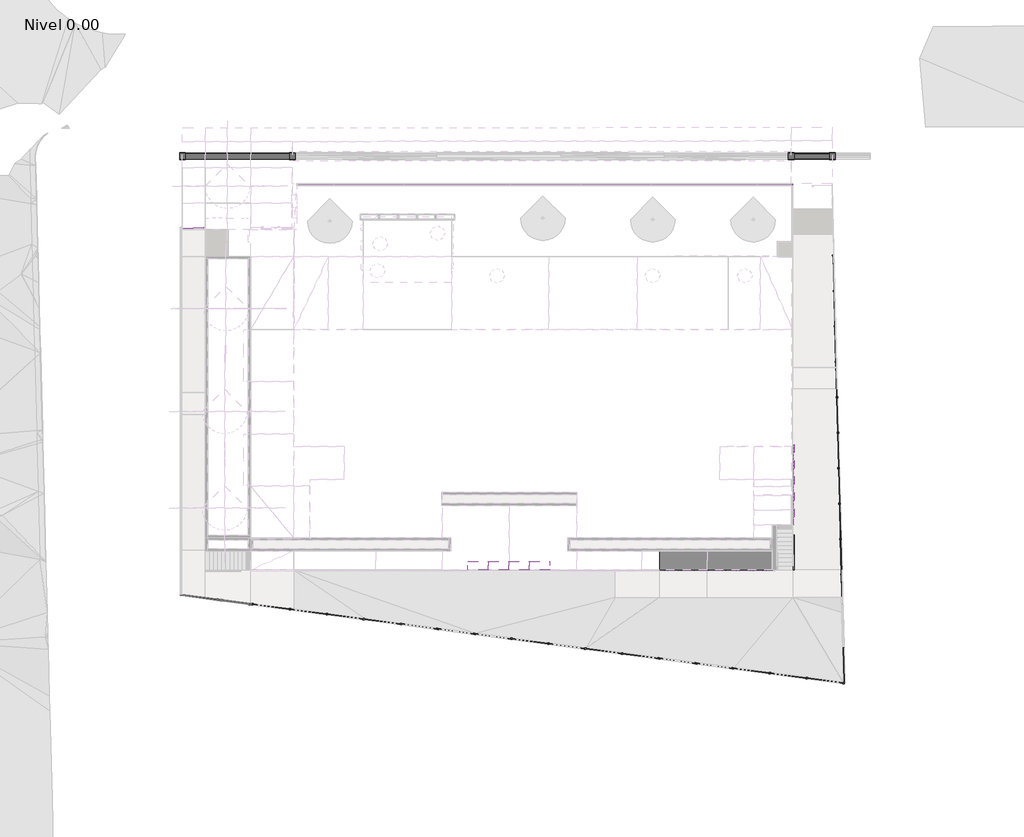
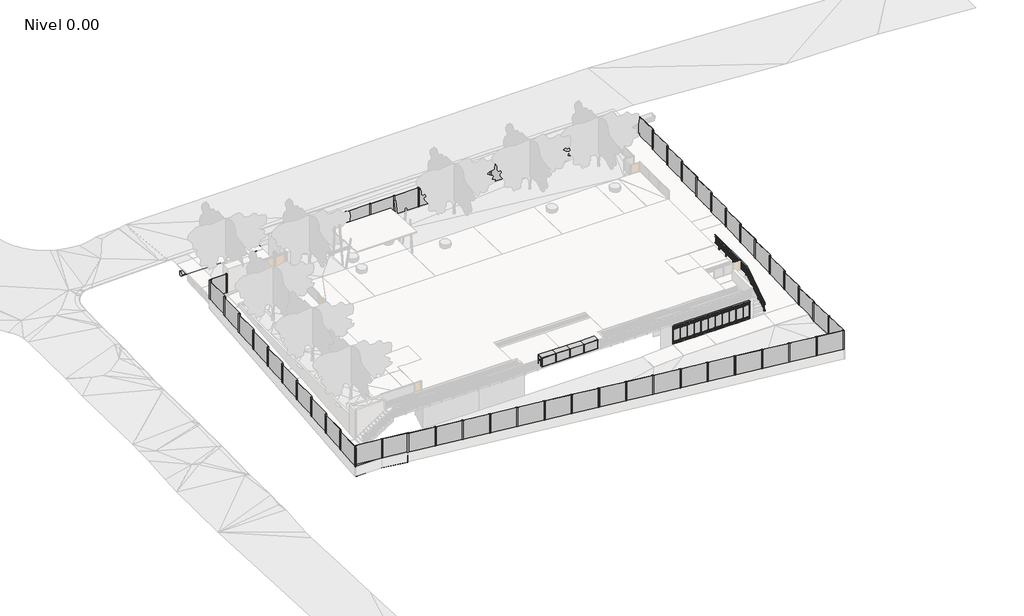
# One storey, part 6 of 10: 9 railings, 5 furniture elements, 4 pipe fittings, 4 proxies, 2 pipe segments.
"""IFC4 building model written with IfcOpenShell, lengths in millimetres."""

from ifc_helpers import new_model, si_unit, point, frame, frame_2d, origin, place, context, project, spatial, polyline, circle_curve, ellipse_curve, trimmed, segment, composite_curve, outline, extrude, triangles, transform, mapped, element, save
from ifc_brep_helpers import plane_surface, cylinder_surface, advanced_brep
from components import m_support_metal_circular_m_support_metal_circular_0da74429, furniture_cada333b, furniture_d1395fad, m_coupling_pvc_sch_40_standard_509bd38a, railing_7fe9504b, railing_19e960b4, railing_235248c9, railing_fcdaff37, railing_3146d198, railing_e0be1908, railing_555e50fc

model = new_model("IFC4")

# Units and contexts
model_context = context("Model", 3, world=origin())
ifc_project = project(units=[si_unit("LENGTHUNIT", "METRE", prefix="MILLI")], contexts=[model_context])

# Site, building, storey
site = spatial("IfcSite", under=ifc_project)
building = spatial("IfcBuilding", under=site)
storey = spatial("IfcBuildingStorey", under=building, Name="Nivel 0.00", Elevation=0.0)

# Proxies
placement = place(None, origin())
element("IfcBuildingElementProxy", 1, Name="Building Element Proxy", at=placement, inside=storey, context=model_context, shape_type="Tessellation", body=[
    triangles([(-19057.5716309, -17933.2763031, -1898.5402199), (-19057.5716309, -17933.2763031, -1000.2852373), (-20894.4734619, -17688.2796295, -1859.9103104), (-20894.4734619, -17688.2796295, -886.9698429), (-20954.5325867, -17680.2696533, -1858.6473061), (-20954.5325867, -17680.2696533, -883.2649092), (-21143.2838562, -17655.0956085, -1854.6777809), (-21143.2838562, -17655.0956085, -871.6211432), (-21331.2258728, -17630.0285339, -1850.7254059), (-21331.2258728, -17630.0285339, -860.0273014), (-21355.3895142, -17626.8054749, -1850.2172974), (-21355.3895142, -17626.8054749, -858.5366947)], [[1, 4, 2], [1, 3, 4], [3, 6, 4], [3, 5, 6], [5, 8, 6], [5, 7, 8], [7, 10, 8], [7, 9, 10], [9, 12, 10], [9, 11, 12]], closed=False),
    triangles([(-18977.8288239, -17943.9117004, -1900.2172977), (-18977.8288239, -17943.9117004, -1168.0709988), (-19000.4658142, -17940.89328, -1899.741164), (-19000.4658142, -17940.89328, -1166.0201065), (-19057.5716309, -17933.2763031, -1898.5402199), (-19057.5716309, -17933.2763031, -1163.9730658)], [[1, 4, 2], [1, 3, 4], [3, 6, 4], [3, 5, 6]], closed=False),
    triangles([(-18990.2141144, -18036.7792877, -1900.2172977), (-18990.2141144, -18036.7792877, -1200.60317), (-18991.0489471, -18043.0347198, -1900.2172977), (-18991.0489471, -18043.0347198, -1202.7942427), (-19396.9544037, -17988.8961639, -1891.6810455), (-19396.9544037, -17988.8961639, -1166.0201065), (-20952.6699097, -17781.4041779, -1858.9644379), (-20952.6699097, -17781.4041779, -1110.253743), (-21002.0017822, -17774.8243469, -1857.9270012), (-21002.0017822, -17774.8243469, -1112.9099035), (-21157.0388306, -17754.1465393, -1854.6665897), (-21157.0388306, -17754.1465393, -1121.2574318), (-21311.4131287, -17733.5559357, -1851.4201309), (-21311.4131287, -17733.5559357, -1122.9340736), (-21368.6096375, -17725.9273315, -1850.2172974), (-21368.6096375, -17725.9273315, -1132.036207)], [[1, 4, 2], [1, 3, 4], [3, 6, 4], [3, 5, 6], [5, 8, 6], [5, 7, 8], [7, 10, 8], [7, 9, 10], [9, 12, 10], [9, 11, 12], [11, 14, 12], [11, 13, 14], [13, 16, 14], [13, 15, 16]], closed=False),
    triangles([(-18990.2141144, -18036.7792877, -1900.2172977), (-18990.2141144, -18036.7792877, -1200.60317), (-18991.0489471, -18043.0347198, -1900.2172977), (-18991.0489471, -18043.0347198, -1202.7942427)], [[1, 4, 2], [1, 3, 4]], closed=False),
    triangles([(-19057.5716309, -17933.2763031, -1898.5402199), (-19057.5716309, -17933.2763031, -1163.9730658), (-19000.4658142, -17940.89328, -1899.741164), (-19000.4658142, -17940.89328, -1166.0201065), (-18977.8288239, -17943.9117004, -1900.2172977), (-18977.8288239, -17943.9117004, -1168.0709988)], [[1, 4, 2], [1, 3, 4], [3, 6, 4], [3, 5, 6]], closed=False),
    triangles([(-18991.0489471, -18043.0347198, -1900.2172977), (-18991.0489471, -18043.0347198, -1202.7942427), (-19396.9544037, -17988.8961639, -1891.6810455), (-19396.9544037, -17988.8961639, -1166.0201065), (-20952.6699097, -17781.4041779, -1858.9644379), (-20952.6699097, -17781.4041779, -1110.253743), (-21002.0017822, -17774.8243469, -1857.9270012), (-21002.0017822, -17774.8243469, -1112.9099035), (-21157.0388306, -17754.1465393, -1854.6665897), (-21157.0388306, -17754.1465393, -1121.2574318), (-21311.4131287, -17733.5559357, -1851.4201309), (-21311.4131287, -17733.5559357, -1122.9340736), (-21368.6096375, -17725.9273315, -1850.2172974), (-21368.6096375, -17725.9273315, -1132.036207)], [[1, 4, 2], [1, 3, 4], [3, 6, 4], [3, 5, 6], [5, 8, 6], [5, 7, 8], [7, 10, 8], [7, 9, 10], [9, 12, 10], [9, 11, 12], [11, 14, 12], [11, 13, 14]], closed=False),
    triangles([(-19057.5716309, -17933.2763031, -1898.5402199), (-19057.5716309, -17933.2763031, -1000.2852373), (-21355.3895142, -17626.8054749, -1850.2172974), (-21355.3895142, -17626.8054749, -858.5366947)], [[1, 4, 2], [1, 3, 4]], closed=False),
    triangles([(-18991.0489471, -18043.0347198, -1900.2172977), (-18977.8288239, -17943.9117004, -1900.2172977), (-21355.3895142, -17626.8054749, -1850.2172974), (-21368.6096375, -17725.9273315, -1850.2172974)], [[3, 4, 1], [1, 2, 3]], closed=False),
])
element("IfcBuildingElementProxy", 2, Name="Building Element Proxy", at=placement, inside=storey, context=model_context, shape_type="Tessellation", body=[
    triangles([(-21355.3895142, -17626.8054749, -1862.714209), (-21355.3895142, -17626.8054749, -858.5366947), (-22137.5720032, -17522.4827728, -1946.7699795), (-22137.5720032, -17522.4827728, -810.2852068)], [[1, 4, 2], [1, 3, 4]], closed=False),
    triangles([(-22137.5720032, -17522.4827728, -1946.7699795), (-22137.5720032, -17522.4827728, -810.1596331), (-23754.9616516, -17306.763382, -2120.5798645), (-23754.9616516, -17306.763382, -810.1596331)], [[1, 4, 2], [1, 3, 4]], closed=False),
    triangles([(-23754.9616516, -17306.763382, -2120.5798645), (-23754.9616516, -17306.763382, -1499.267062), (-23758.2800537, -17306.763382, -2120.9304245), (-23758.2800537, -17306.763382, -1499.8503113)], [[1, 4, 2], [1, 3, 4]], closed=False),
    triangles([(-21368.6096375, -17725.9273315, -1862.714209), (-21368.6096375, -17725.9273315, -1132.036207), (-23761.6007812, -17406.763092, -2119.8726402), (-23761.6007812, -17406.763092, -1512.845739), (-23858.2809265, -17406.763092, -2130.0807381), (-23858.2809265, -17406.763092, -1529.8314754), (-23858.2809265, -17306.763382, -2131.488937), (-23858.2809265, -17306.763382, -1517.419297)], [[1, 4, 2], [1, 3, 4], [3, 6, 4], [3, 5, 6], [5, 8, 6], [5, 7, 8]], closed=False),
    triangles([(-23858.2809265, -17306.763382, -2131.488937), (-23858.2809265, -17306.763382, -1517.419297), (-23858.2809265, -17406.763092, -2130.0807381), (-23858.2809265, -17406.763092, -1529.8314754), (-23761.6007812, -17406.763092, -2119.8726402), (-23761.6007812, -17406.763092, -1512.845739), (-21368.6096375, -17725.9273315, -1862.714209), (-21368.6096375, -17725.9273315, -1132.036207)], [[1, 4, 2], [1, 3, 4], [3, 6, 4], [3, 5, 6], [5, 8, 6], [5, 7, 8]], closed=False),
    triangles([(-23754.9616516, -17306.763382, -2120.5798645), (-23754.9616516, -17306.763382, -1499.267062), (-23758.2800537, -17306.763382, -2120.9304245), (-23758.2800537, -17306.763382, -1499.8503113)], [[1, 4, 2], [1, 3, 4]], closed=False),
    triangles([(-21355.3895142, -17626.8054749, -1862.714209), (-21355.3895142, -17626.8054749, -858.5366947), (-22137.5720032, -17522.4827728, -1946.7699795), (-22137.5720032, -17522.4827728, -810.2852068)], [[1, 4, 2], [1, 3, 4]], closed=False),
    triangles([(-22137.5720032, -17522.4827728, -1946.7699795), (-22137.5720032, -17522.4827728, -810.1596331), (-23754.9616516, -17306.763382, -2120.5798645), (-23754.9616516, -17306.763382, -810.1596331)], [[1, 4, 2], [1, 3, 4]], closed=False),
    triangles([(-21368.6096375, -17725.9273315, -1862.714209), (-21355.3895142, -17626.8054749, -1862.714209), (-23754.9616516, -17306.763382, -2120.5798645), (-23858.2809265, -17306.763382, -2131.488937), (-23858.2809265, -17406.763092, -2130.0807381), (-23761.6007812, -17406.763092, -2119.8726402)], [[4, 5, 6], [4, 6, 3], [6, 2, 3], [2, 6, 1]], closed=False),
])
m_support_metal_circular_m_support_metal_circular_shape = m_support_metal_circular_m_support_metal_circular_0da74429(model_context)
element("IfcBuildingElementProxy", 3, Name="M_Support - Metal - Circular : M_Support - Metal - Circular", ObjectType="M_Support - Metal - Circular : M_Support - Metal - Circular", at=placement, inside=storey, context=model_context, shape_type="MappedRepresentation", body=[
    mapped(m_support_metal_circular_m_support_metal_circular_shape, transform((16970.5253342, -13437.8549023, 1876.2622075), x_axis=(0.0, 1.0, 0.0), y_axis=(-1.0, 0.0, 0.0), z_axis=(0.0, 0.0, 1.0))),
])
element("IfcBuildingElementProxy", 4, Name="M_Support - Metal - Circular : M_Support - Metal - Circular", ObjectType="M_Support - Metal - Circular : M_Support - Metal - Circular", at=placement, inside=storey, context=model_context, shape_type="MappedRepresentation", body=[
    mapped(m_support_metal_circular_m_support_metal_circular_shape, transform((16970.5253342, -12766.7351697, 2311.6910816), x_axis=(0.0, 1.0, 0.0), y_axis=(-1.0, 0.0, 0.0), z_axis=(0.0, 0.0, 1.0))),
])

# Furniture
furniture_shape = furniture_cada333b(model_context)
element("IfcFurniture", 5, ObjectType="ARQ_MODULO_JAULA : ARQ_MODULO_JAULA", at=placement, inside=storey, context=model_context, shape_type="MappedRepresentation", body=[
    mapped(furniture_shape, transform((-3544.4234355, -15053.079504, 1514.5434448), x_axis=(1.0, 0.0, 0.0), y_axis=(0.0, 1.0, 0.0), z_axis=(0.0, 0.0, 1.0))),
])
element("IfcFurniture", 6, ObjectType="ARQ_MODULO_JAULA : ARQ_MODULO_JAULA", at=placement, inside=storey, context=model_context, shape_type="MappedRepresentation", body=[
    mapped(furniture_shape, transform((-2144.4234355, -15053.079504, 1514.5434448), x_axis=(1.0, 0.0, 0.0), y_axis=(0.0, 1.0, 0.0), z_axis=(0.0, 0.0, 1.0))),
])
element("IfcFurniture", 7, ObjectType="ARQ_MODULO_JAULA : ARQ_MODULO_JAULA", at=placement, inside=storey, context=model_context, shape_type="MappedRepresentation", body=[
    mapped(furniture_shape, transform((-744.4234355, -15053.079504, 1514.5433838), x_axis=(1.0, 0.0, 0.0), y_axis=(0.0, 1.0, 0.0), z_axis=(0.0, 0.0, 1.0))),
])
element("IfcFurniture", 8, ObjectType="ARQ_MODULO_JAULA : ARQ_MODULO_JAULA", at=placement, inside=storey, context=model_context, shape_type="MappedRepresentation", body=[
    mapped(furniture_shape, transform((655.5765645, -15053.079504, 1514.5433838), x_axis=(1.0, 0.0, 0.0), y_axis=(0.0, 1.0, 0.0), z_axis=(0.0, 0.0, 1.0))),
])
furniture_2_shape = furniture_d1395fad(model_context)
element("IfcFurniture", 9, ObjectType="ARQ_NICHOS : ARQ_NICHOS", at=placement, inside=storey, context=model_context, shape_type="MappedRepresentation", body=[
    mapped(furniture_2_shape, transform((11660.8247223, -14303.0159448, -638.4646224), x_axis=(1.0, 0.0, 0.0), y_axis=(0.0, 1.0, 0.0), z_axis=(0.0, 0.0, 1.0))),
])

# Pipe fittings
m_coupling_pvc_sch_40_standard_shape = m_coupling_pvc_sch_40_standard_509bd38a(model_context)
element("IfcPipeFitting", 10, ObjectType="M_Coupling - PVC - Sch 40 : Standard", at=placement, inside=storey, context=model_context, shape_type="MappedRepresentation", body=[
    mapped(m_coupling_pvc_sch_40_standard_shape, transform((-23711.0074594, 12648.0592075, 1129.8532275), x_axis=(-1.0, 0.0, 0.0), y_axis=(0.0, -1.0, 0.0), z_axis=(0.0, 0.0, 1.0))),
])
element("IfcPipeFitting", 11, ObjectType="M_Coupling - PVC - Sch 40 : Standard", at=placement, inside=storey, context=model_context, shape_type="MappedRepresentation", body=[
    mapped(m_coupling_pvc_sch_40_standard_shape, transform((-16209.6438586, 12648.0592075, 1129.8532275), x_axis=(1.0, 0.0, 0.0), y_axis=(0.0, 1.0, 0.0), z_axis=(0.0, 0.0, 1.0))),
])
element("IfcPipeFitting", 12, ObjectType="M_Coupling - PVC - Sch 40 : Standard", at=placement, inside=storey, context=model_context, shape_type="MappedRepresentation", body=[
    mapped(m_coupling_pvc_sch_40_standard_shape, transform((17902.8365357, 12648.0592075, 1104.6326427), x_axis=(1.0, 0.0, 0.0), y_axis=(0.0, 1.0, 0.0), z_axis=(0.0, 0.0, 1.0))),
])
element("IfcPipeFitting", 13, ObjectType="M_Coupling - PVC - Sch 40 : Standard", at=placement, inside=storey, context=model_context, shape_type="MappedRepresentation", body=[
    mapped(m_coupling_pvc_sch_40_standard_shape, transform((20695.669365, 12648.0592075, 1104.6326427), x_axis=(1.0, 0.0, 0.0), y_axis=(0.0, 1.0, 0.0), z_axis=(0.0, 0.0, 1.0))),
])

# Pipe segments
element("IfcPipeSegment", 14, ObjectType="TUBERIA_PVC", at=placement, inside=storey, context=model_context, shape_type="SweptSolid", body=[
    extrude(outline(composite_curve([segment(trimmed(circle_curve(frame_2d((12648.0592075, 1104.6326427)), 211.925), [point((12859.9842075, 1104.6326427))], [point((12648.0592075, 892.7076427))], False, "CARTESIAN"), True, "CONTINUOUS"), segment(trimmed(circle_curve(frame_2d((12648.0592075, 1104.6326427)), 211.925), [point((12648.0592075, 892.7076427))], [point((12436.1342075, 1104.6326427))], False, "CARTESIAN"), True, "CONTINUOUS"), segment(trimmed(circle_curve(frame_2d((12648.0592075, 1104.6326427)), 211.925), [point((12436.1342075, 1104.6326427))], [point((12648.0592075, 1316.5576427))], False, "CARTESIAN"), True, "CONTINUOUS"), segment(trimmed(circle_curve(frame_2d((12648.0592075, 1104.6326427)), 211.925), [point((12648.0592075, 1316.5576427))], [point((12859.9842075, 1104.6326427))], False, "CARTESIAN"), True, "CONTINUOUS")], self_intersect=False)), frame((18100.1474732, 0.0, 0.0), z_axis=(1.0, 0.0, 0.0), x_axis=(0.0, 1.0, 0.0)), (0.0, 0.0, 1.0), 2398.2109542),
])
element("IfcPipeSegment", 15, ObjectType="TUBERIA_PVC", at=placement, inside=storey, context=model_context, shape_type="SweptSolid", body=[
    extrude(outline(composite_curve([segment(trimmed(circle_curve(frame_2d((12648.0592075, 1129.8532275)), 211.925), [point((12859.9842075, 1129.8532275))], [point((12648.0592075, 917.9282275))], False, "CARTESIAN"), True, "CONTINUOUS"), segment(trimmed(circle_curve(frame_2d((12648.0592075, 1129.8532275)), 211.925), [point((12648.0592075, 917.9282275))], [point((12436.1342075, 1129.8532275))], False, "CARTESIAN"), True, "CONTINUOUS"), segment(trimmed(circle_curve(frame_2d((12648.0592075, 1129.8532275)), 211.925), [point((12436.1342075, 1129.8532275))], [point((12648.0592075, 1341.7782275))], False, "CARTESIAN"), True, "CONTINUOUS"), segment(trimmed(circle_curve(frame_2d((12648.0592075, 1129.8532275)), 211.925), [point((12648.0592075, 1341.7782275))], [point((12859.9842075, 1129.8532275))], False, "CARTESIAN"), True, "CONTINUOUS")], self_intersect=False)), frame((-23513.6965219, 0.0, 0.0), z_axis=(1.0, 0.0, 0.0), x_axis=(0.0, 1.0, 0.0)), (0.0, 0.0, 1.0), 7106.7417258),
])

# Railings
element("IfcRailing", 16, ObjectType="BARANDA_RAMPA_1000mm", at=placement, inside=storey, context=model_context, shape_type="SweptSolid", body=[
    extrude(outline(composite_curve([segment(trimmed(circle_curve(frame_2d((2495.0, 18085.525633)), 25.0), [point((2495.0, 18110.525633))], [point((2495.0, 18060.525633))], False, "CARTESIAN"), True, "CONTINUOUS"), segment(trimmed(circle_curve(frame_2d((2495.0, 18085.525633)), 25.0), [point((2495.0, 18060.525633))], [point((2495.0, 18110.525633))], False, "CARTESIAN"), True, "CONTINUOUS")], self_intersect=False)), frame((0.0, -12568.9746349, 0.0), z_axis=(0.0, 1.0, 0.0), x_axis=(0.0, 0.0, 1.0)), (0.0, 0.0, 1.0), 5514.3098024),
    extrude(outline(polyline([(18105.525633, -12568.9746349), (18055.525633, -12568.9746349), (18055.525633, -7054.6648325), (18105.525633, -7054.6648325), (18105.525633, -12568.9746349)])), frame((0.0, 0.0, 2308.0), z_axis=(0.0, 0.0, 1.0), x_axis=(1.0, 0.0, 0.0)), (0.0, 0.0, 1.0), 12.0),
    extrude(outline(polyline([(18105.525633, -12568.9746349), (18055.525633, -12568.9746349), (18055.525633, -7054.6648325), (18105.525633, -7054.6648325), (18105.525633, -12568.9746349)])), frame((0.0, 0.0, 1658.0), z_axis=(0.0, 0.0, 1.0), x_axis=(1.0, 0.0, 0.0)), (0.0, 0.0, 1.0), 12.0),
    extrude(outline(polyline([(18105.525633, -7174.9746349), (18055.525633, -7174.9746349), (18055.525633, -7162.9746349), (18105.525633, -7162.9746349), (18105.525633, -7174.9746349)])), frame((0.0, 0.0, 1670.0), z_axis=(0.0, 0.0, 1.0), x_axis=(1.0, 0.0, 0.0)), (0.0, 0.0, 1.0), 638.0),
    extrude(outline(polyline([(18105.525633, -7294.9746349), (18055.525633, -7294.9746349), (18055.525633, -7282.9746349), (18105.525633, -7282.9746349), (18105.525633, -7294.9746349)])), frame((0.0, 0.0, 1670.0), z_axis=(0.0, 0.0, 1.0), x_axis=(1.0, 0.0, 0.0)), (0.0, 0.0, 1.0), 638.0),
    extrude(outline(polyline([(18105.525633, -7414.9746349), (18055.525633, -7414.9746349), (18055.525633, -7402.9746349), (18105.525633, -7402.9746349), (18105.525633, -7414.9746349)])), frame((0.0, 0.0, 1670.0), z_axis=(0.0, 0.0, 1.0), x_axis=(1.0, 0.0, 0.0)), (0.0, 0.0, 1.0), 638.0),
    extrude(outline(polyline([(18105.525633, -7534.9746349), (18055.525633, -7534.9746349), (18055.525633, -7522.9746349), (18105.525633, -7522.9746349), (18105.525633, -7534.9746349)])), frame((0.0, 0.0, 1670.0), z_axis=(0.0, 0.0, 1.0), x_axis=(1.0, 0.0, 0.0)), (0.0, 0.0, 1.0), 638.0),
    extrude(outline(polyline([(18105.525633, -7654.9746349), (18055.525633, -7654.9746349), (18055.525633, -7642.9746349), (18105.525633, -7642.9746349), (18105.525633, -7654.9746349)])), frame((0.0, 0.0, 1670.0), z_axis=(0.0, 0.0, 1.0), x_axis=(1.0, 0.0, 0.0)), (0.0, 0.0, 1.0), 638.0),
    extrude(outline(polyline([(18105.525633, -7774.9746349), (18055.525633, -7774.9746349), (18055.525633, -7762.9746349), (18105.525633, -7762.9746349), (18105.525633, -7774.9746349)])), frame((0.0, 0.0, 1370.0), z_axis=(0.0, 0.0, 1.0), x_axis=(1.0, 0.0, 0.0)), (0.0, 0.0, 1.0), 1100.0),
    extrude(outline(polyline([(18105.525633, -7894.9746349), (18055.525633, -7894.9746349), (18055.525633, -7882.9746349), (18105.525633, -7882.9746349), (18105.525633, -7894.9746349)])), frame((0.0, 0.0, 1670.0), z_axis=(0.0, 0.0, 1.0), x_axis=(1.0, 0.0, 0.0)), (0.0, 0.0, 1.0), 638.0),
    extrude(outline(polyline([(18105.525633, -8014.9746349), (18055.525633, -8014.9746349), (18055.525633, -8002.9746349), (18105.525633, -8002.9746349), (18105.525633, -8014.9746349)])), frame((0.0, 0.0, 1670.0), z_axis=(0.0, 0.0, 1.0), x_axis=(1.0, 0.0, 0.0)), (0.0, 0.0, 1.0), 638.0),
    extrude(outline(polyline([(18105.525633, -8134.9746349), (18055.525633, -8134.9746349), (18055.525633, -8122.9746349), (18105.525633, -8122.9746349), (18105.525633, -8134.9746349)])), frame((0.0, 0.0, 1670.0), z_axis=(0.0, 0.0, 1.0), x_axis=(1.0, 0.0, 0.0)), (0.0, 0.0, 1.0), 638.0),
    extrude(outline(polyline([(18105.525633, -8254.9746349), (18055.525633, -8254.9746349), (18055.525633, -8242.9746349), (18105.525633, -8242.9746349), (18105.525633, -8254.9746349)])), frame((0.0, 0.0, 1670.0), z_axis=(0.0, 0.0, 1.0), x_axis=(1.0, 0.0, 0.0)), (0.0, 0.0, 1.0), 638.0),
    extrude(outline(polyline([(18105.525633, -8374.9746349), (18055.525633, -8374.9746349), (18055.525633, -8362.9746349), (18105.525633, -8362.9746349), (18105.525633, -8374.9746349)])), frame((0.0, 0.0, 1670.0), z_axis=(0.0, 0.0, 1.0), x_axis=(1.0, 0.0, 0.0)), (0.0, 0.0, 1.0), 638.0),
    extrude(outline(polyline([(18105.525633, -8494.9746349), (18055.525633, -8494.9746349), (18055.525633, -8482.9746349), (18105.525633, -8482.9746349), (18105.525633, -8494.9746349)])), frame((0.0, 0.0, 1670.0), z_axis=(0.0, 0.0, 1.0), x_axis=(1.0, 0.0, 0.0)), (0.0, 0.0, 1.0), 638.0),
    extrude(outline(polyline([(18105.525633, -8614.9746349), (18055.525633, -8614.9746349), (18055.525633, -8602.9746349), (18105.525633, -8602.9746349), (18105.525633, -8614.9746349)])), frame((0.0, 0.0, 1670.0), z_axis=(0.0, 0.0, 1.0), x_axis=(1.0, 0.0, 0.0)), (0.0, 0.0, 1.0), 638.0),
    extrude(outline(polyline([(18105.525633, -8734.9746349), (18055.525633, -8734.9746349), (18055.525633, -8722.9746349), (18105.525633, -8722.9746349), (18105.525633, -8734.9746349)])), frame((0.0, 0.0, 1670.0), z_axis=(0.0, 0.0, 1.0), x_axis=(1.0, 0.0, 0.0)), (0.0, 0.0, 1.0), 638.0),
    extrude(outline(polyline([(18105.525633, -8854.9746349), (18055.525633, -8854.9746349), (18055.525633, -8842.9746349), (18105.525633, -8842.9746349), (18105.525633, -8854.9746349)])), frame((0.0, 0.0, 1670.0), z_axis=(0.0, 0.0, 1.0), x_axis=(1.0, 0.0, 0.0)), (0.0, 0.0, 1.0), 638.0),
    extrude(outline(polyline([(18105.525633, -8974.9746349), (18055.525633, -8974.9746349), (18055.525633, -8962.9746349), (18105.525633, -8962.9746349), (18105.525633, -8974.9746349)])), frame((0.0, 0.0, 1370.0), z_axis=(0.0, 0.0, 1.0), x_axis=(1.0, 0.0, 0.0)), (0.0, 0.0, 1.0), 1100.0),
    extrude(outline(polyline([(18105.525633, -9094.9746349), (18055.525633, -9094.9746349), (18055.525633, -9082.9746349), (18105.525633, -9082.9746349), (18105.525633, -9094.9746349)])), frame((0.0, 0.0, 1670.0), z_axis=(0.0, 0.0, 1.0), x_axis=(1.0, 0.0, 0.0)), (0.0, 0.0, 1.0), 638.0),
    extrude(outline(polyline([(18105.525633, -9214.9746349), (18055.525633, -9214.9746349), (18055.525633, -9202.9746349), (18105.525633, -9202.9746349), (18105.525633, -9214.9746349)])), frame((0.0, 0.0, 1670.0), z_axis=(0.0, 0.0, 1.0), x_axis=(1.0, 0.0, 0.0)), (0.0, 0.0, 1.0), 638.0),
    extrude(outline(polyline([(18105.525633, -9334.9746349), (18055.525633, -9334.9746349), (18055.525633, -9322.9746349), (18105.525633, -9322.9746349), (18105.525633, -9334.9746349)])), frame((0.0, 0.0, 1670.0), z_axis=(0.0, 0.0, 1.0), x_axis=(1.0, 0.0, 0.0)), (0.0, 0.0, 1.0), 638.0),
    extrude(outline(polyline([(18105.525633, -9454.9746349), (18055.525633, -9454.9746349), (18055.525633, -9442.9746349), (18105.525633, -9442.9746349), (18105.525633, -9454.9746349)])), frame((0.0, 0.0, 1670.0), z_axis=(0.0, 0.0, 1.0), x_axis=(1.0, 0.0, 0.0)), (0.0, 0.0, 1.0), 638.0),
    extrude(outline(polyline([(18105.525633, -9574.9746349), (18055.525633, -9574.9746349), (18055.525633, -9562.9746349), (18105.525633, -9562.9746349), (18105.525633, -9574.9746349)])), frame((0.0, 0.0, 1670.0), z_axis=(0.0, 0.0, 1.0), x_axis=(1.0, 0.0, 0.0)), (0.0, 0.0, 1.0), 638.0),
    extrude(outline(polyline([(18105.525633, -9694.9746349), (18055.525633, -9694.9746349), (18055.525633, -9682.9746349), (18105.525633, -9682.9746349), (18105.525633, -9694.9746349)])), frame((0.0, 0.0, 1670.0), z_axis=(0.0, 0.0, 1.0), x_axis=(1.0, 0.0, 0.0)), (0.0, 0.0, 1.0), 638.0),
    extrude(outline(polyline([(18105.525633, -9814.9746349), (18055.525633, -9814.9746349), (18055.525633, -9802.9746349), (18105.525633, -9802.9746349), (18105.525633, -9814.9746349)])), frame((0.0, 0.0, 1670.0), z_axis=(0.0, 0.0, 1.0), x_axis=(1.0, 0.0, 0.0)), (0.0, 0.0, 1.0), 638.0),
    extrude(outline(polyline([(18105.525633, -9934.9746349), (18055.525633, -9934.9746349), (18055.525633, -9922.9746349), (18105.525633, -9922.9746349), (18105.525633, -9934.9746349)])), frame((0.0, 0.0, 1670.0), z_axis=(0.0, 0.0, 1.0), x_axis=(1.0, 0.0, 0.0)), (0.0, 0.0, 1.0), 638.0),
    extrude(outline(polyline([(18105.525633, -10054.9746349), (18055.525633, -10054.9746349), (18055.525633, -10042.9746349), (18105.525633, -10042.9746349), (18105.525633, -10054.9746349)])), frame((0.0, 0.0, 1670.0), z_axis=(0.0, 0.0, 1.0), x_axis=(1.0, 0.0, 0.0)), (0.0, 0.0, 1.0), 638.0),
    extrude(outline(polyline([(18105.525633, -10174.9746349), (18055.525633, -10174.9746349), (18055.525633, -10162.9746349), (18105.525633, -10162.9746349), (18105.525633, -10174.9746349)])), frame((0.0, 0.0, 1370.0), z_axis=(0.0, 0.0, 1.0), x_axis=(1.0, 0.0, 0.0)), (0.0, 0.0, 1.0), 1100.0),
    extrude(outline(polyline([(18105.525633, -10294.9746349), (18055.525633, -10294.9746349), (18055.525633, -10282.9746349), (18105.525633, -10282.9746349), (18105.525633, -10294.9746349)])), frame((0.0, 0.0, 1670.0), z_axis=(0.0, 0.0, 1.0), x_axis=(1.0, 0.0, 0.0)), (0.0, 0.0, 1.0), 638.0),
    extrude(outline(polyline([(18105.525633, -10414.9746349), (18055.525633, -10414.9746349), (18055.525633, -10402.9746349), (18105.525633, -10402.9746349), (18105.525633, -10414.9746349)])), frame((0.0, 0.0, 1670.0), z_axis=(0.0, 0.0, 1.0), x_axis=(1.0, 0.0, 0.0)), (0.0, 0.0, 1.0), 638.0),
    extrude(outline(polyline([(18105.525633, -10534.9746349), (18055.525633, -10534.9746349), (18055.525633, -10522.9746349), (18105.525633, -10522.9746349), (18105.525633, -10534.9746349)])), frame((0.0, 0.0, 1670.0), z_axis=(0.0, 0.0, 1.0), x_axis=(1.0, 0.0, 0.0)), (0.0, 0.0, 1.0), 638.0),
    extrude(outline(polyline([(18105.525633, -10654.9746349), (18055.525633, -10654.9746349), (18055.525633, -10642.9746349), (18105.525633, -10642.9746349), (18105.525633, -10654.9746349)])), frame((0.0, 0.0, 1670.0), z_axis=(0.0, 0.0, 1.0), x_axis=(1.0, 0.0, 0.0)), (0.0, 0.0, 1.0), 638.0),
    extrude(outline(polyline([(18105.525633, -10774.9746349), (18055.525633, -10774.9746349), (18055.525633, -10762.9746349), (18105.525633, -10762.9746349), (18105.525633, -10774.9746349)])), frame((0.0, 0.0, 1670.0), z_axis=(0.0, 0.0, 1.0), x_axis=(1.0, 0.0, 0.0)), (0.0, 0.0, 1.0), 638.0),
    extrude(outline(polyline([(18105.525633, -10894.9746349), (18055.525633, -10894.9746349), (18055.525633, -10882.9746349), (18105.525633, -10882.9746349), (18105.525633, -10894.9746349)])), frame((0.0, 0.0, 1670.0), z_axis=(0.0, 0.0, 1.0), x_axis=(1.0, 0.0, 0.0)), (0.0, 0.0, 1.0), 638.0),
    extrude(outline(polyline([(18105.525633, -11014.9746349), (18055.525633, -11014.9746349), (18055.525633, -11002.9746349), (18105.525633, -11002.9746349), (18105.525633, -11014.9746349)])), frame((0.0, 0.0, 1670.0), z_axis=(0.0, 0.0, 1.0), x_axis=(1.0, 0.0, 0.0)), (0.0, 0.0, 1.0), 638.0),
    extrude(outline(polyline([(18105.525633, -11134.9746349), (18055.525633, -11134.9746349), (18055.525633, -11122.9746349), (18105.525633, -11122.9746349), (18105.525633, -11134.9746349)])), frame((0.0, 0.0, 1670.0), z_axis=(0.0, 0.0, 1.0), x_axis=(1.0, 0.0, 0.0)), (0.0, 0.0, 1.0), 638.0),
    extrude(outline(polyline([(18105.525633, -11254.9746349), (18055.525633, -11254.9746349), (18055.525633, -11242.9746349), (18105.525633, -11242.9746349), (18105.525633, -11254.9746349)])), frame((0.0, 0.0, 1670.0), z_axis=(0.0, 0.0, 1.0), x_axis=(1.0, 0.0, 0.0)), (0.0, 0.0, 1.0), 638.0),
    extrude(outline(polyline([(18105.525633, -11374.9746349), (18055.525633, -11374.9746349), (18055.525633, -11362.9746349), (18105.525633, -11362.9746349), (18105.525633, -11374.9746349)])), frame((0.0, 0.0, 1370.0), z_axis=(0.0, 0.0, 1.0), x_axis=(1.0, 0.0, 0.0)), (0.0, 0.0, 1.0), 1100.0),
    extrude(outline(polyline([(18105.525633, -11494.9746349), (18055.525633, -11494.9746349), (18055.525633, -11482.9746349), (18105.525633, -11482.9746349), (18105.525633, -11494.9746349)])), frame((0.0, 0.0, 1670.0), z_axis=(0.0, 0.0, 1.0), x_axis=(1.0, 0.0, 0.0)), (0.0, 0.0, 1.0), 638.0),
    extrude(outline(polyline([(18105.525633, -11614.9746349), (18055.525633, -11614.9746349), (18055.525633, -11602.9746349), (18105.525633, -11602.9746349), (18105.525633, -11614.9746349)])), frame((0.0, 0.0, 1670.0), z_axis=(0.0, 0.0, 1.0), x_axis=(1.0, 0.0, 0.0)), (0.0, 0.0, 1.0), 638.0),
    extrude(outline(polyline([(18105.525633, -11734.9746349), (18055.525633, -11734.9746349), (18055.525633, -11722.9746349), (18105.525633, -11722.9746349), (18105.525633, -11734.9746349)])), frame((0.0, 0.0, 1670.0), z_axis=(0.0, 0.0, 1.0), x_axis=(1.0, 0.0, 0.0)), (0.0, 0.0, 1.0), 638.0),
    extrude(outline(polyline([(18105.525633, -11854.9746349), (18055.525633, -11854.9746349), (18055.525633, -11842.9746349), (18105.525633, -11842.9746349), (18105.525633, -11854.9746349)])), frame((0.0, 0.0, 1670.0), z_axis=(0.0, 0.0, 1.0), x_axis=(1.0, 0.0, 0.0)), (0.0, 0.0, 1.0), 638.0),
    extrude(outline(polyline([(18105.525633, -11974.9746349), (18055.525633, -11974.9746349), (18055.525633, -11962.9746349), (18105.525633, -11962.9746349), (18105.525633, -11974.9746349)])), frame((0.0, 0.0, 1670.0), z_axis=(0.0, 0.0, 1.0), x_axis=(1.0, 0.0, 0.0)), (0.0, 0.0, 1.0), 638.0),
    extrude(outline(polyline([(18105.525633, -12094.9746349), (18055.525633, -12094.9746349), (18055.525633, -12082.9746349), (18105.525633, -12082.9746349), (18105.525633, -12094.9746349)])), frame((0.0, 0.0, 1670.0), z_axis=(0.0, 0.0, 1.0), x_axis=(1.0, 0.0, 0.0)), (0.0, 0.0, 1.0), 638.0),
    extrude(outline(polyline([(18105.525633, -12214.9746349), (18055.525633, -12214.9746349), (18055.525633, -12202.9746349), (18105.525633, -12202.9746349), (18105.525633, -12214.9746349)])), frame((0.0, 0.0, 1670.0), z_axis=(0.0, 0.0, 1.0), x_axis=(1.0, 0.0, 0.0)), (0.0, 0.0, 1.0), 638.0),
    extrude(outline(polyline([(18105.525633, -12334.9746349), (18055.525633, -12334.9746349), (18055.525633, -12322.9746349), (18105.525633, -12322.9746349), (18105.525633, -12334.9746349)])), frame((0.0, 0.0, 1670.0), z_axis=(0.0, 0.0, 1.0), x_axis=(1.0, 0.0, 0.0)), (0.0, 0.0, 1.0), 638.0),
    extrude(outline(polyline([(18105.525633, -12454.9746349), (18055.525633, -12454.9746349), (18055.525633, -12442.9746349), (18105.525633, -12442.9746349), (18105.525633, -12454.9746349)])), frame((0.0, 0.0, 1670.0), z_axis=(0.0, 0.0, 1.0), x_axis=(1.0, 0.0, 0.0)), (0.0, 0.0, 1.0), 638.0),
    extrude(outline(polyline([(18105.525633, -12468.9746349), (18055.525633, -12468.9746349), (18055.525633, -12418.9746349), (18105.525633, -12418.9746349), (18105.525633, -12468.9746349)])), frame((0.0, 0.0, 1520.0), z_axis=(0.0, 0.0, 1.0), x_axis=(1.0, 0.0, 0.0)), (0.0, 0.0, 1.0), 950.0),
])
element("IfcRailing", 17, ObjectType="BARANDA_RAMPA_1000mm", at=placement, inside=storey, context=model_context, shape_type="SolidModel", body=[
    advanced_brep(
    [(18100.525633, -15648.974635, 491.865725), (18050.525633, -15648.974635, 491.865725), (18100.525633, -12568.9746349, 2490.1990583), (18050.525633, -12568.9746349, 2490.1990583)],
    [
        (0, 1, ellipse_curve(frame((18075.525633, -15648.974635, 491.865725), z_axis=(0.0, -1.0, 0.0), x_axis=(0.0, 0.0, -1.0)), 29.8009417, 25.0)),
        (1, 0, ellipse_curve(frame((18075.525633, -15648.974635, 491.865725), z_axis=(0.0, -1.0, 0.0), x_axis=(0.0, 0.0, -1.0)), 29.8009417, 25.0)),
        (2, 3, ellipse_curve(frame((18075.525633, -12568.9746349, 2490.1990583), z_axis=(0.0, 1.0, 0.0), x_axis=(0.0, 0.0, -1.0)), 29.8009417, 25.0)),
        (3, 2, ellipse_curve(frame((18075.525633, -12568.9746349, 2490.1990583), z_axis=(0.0, 1.0, 0.0), x_axis=(0.0, 0.0, -1.0)), 29.8009417, 25.0)),
        (0, 2),
        (3, 1),
    ],
    [
        plane_surface(frame((18075.525633, -15648.974635, 521.6666667), z_axis=(0.0, -1.0, 0.0), x_axis=(0.0, 0.0, 1.0))),
        plane_surface(frame((18075.525633, -12568.9746349, 2520.0), z_axis=(0.0, 1.0, 0.0), x_axis=(0.0, 0.0, 1.0))),
        cylinder_surface(frame((18075.525633, -15635.3674827, 500.694175), z_axis=(0.0, -0.838899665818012, -0.5442860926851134), x_axis=(-1.0, 0.0, 0.0)), 25.0),
    ],
    [
        (0, [[1, 2]]),
        (1, [[3, 4]]),
        (2, [[-1, 5, -4, 6]]),
        (2, [[-2, -6, -3, -5]]),
    ],
),
    extrude(outline(polyline([(-15648.974635, 307.3622147), (-15648.974635, 321.6666667), (-12568.9746349, 2320.0), (-12568.9746349, 2305.695548), (-15648.974635, 307.3622147)])), frame((18055.525633, 0.0, 0.0), z_axis=(1.0, 0.0, 0.0), x_axis=(0.0, 1.0, 0.0)), (0.0, 0.0, 1.0), 50.0),
    extrude(outline(polyline([(-15648.974635, -342.6377853), (-15648.974635, -328.3333333), (-12568.9746349, 1670.0), (-12568.9746349, 1655.695548), (-15648.974635, -342.6377853)])), frame((18055.525633, 0.0, 0.0), z_axis=(1.0, 0.0, 0.0), x_axis=(0.0, 1.0, 0.0)), (0.0, 0.0, 1.0), 50.0),
    extrude(outline(polyline([(-12642.974635, 1621.9880952), (-12654.974635, 1614.2023809), (-12654.974635, 2252.2023809), (-12642.974635, 2259.9880952), (-12642.974635, 1621.9880952)])), frame((18055.525633, 0.0, 0.0), z_axis=(1.0, 0.0, 0.0), x_axis=(0.0, 1.0, 0.0)), (0.0, 0.0, 1.0), 50.0),
    extrude(outline(polyline([(-12762.974635, 1544.1309523), (-12774.974635, 1536.345238), (-12774.974635, 2174.345238), (-12762.974635, 2182.1309523), (-12762.974635, 1544.1309523)])), frame((18055.525633, 0.0, 0.0), z_axis=(1.0, 0.0, 0.0), x_axis=(0.0, 1.0, 0.0)), (0.0, 0.0, 1.0), 50.0),
    extrude(outline(polyline([(-12882.974635, 1466.2738095), (-12894.974635, 1458.4880952), (-12894.974635, 2096.4880952), (-12882.974635, 2104.2738095), (-12882.974635, 1466.2738095)])), frame((18055.525633, 0.0, 0.0), z_axis=(1.0, 0.0, 0.0), x_axis=(0.0, 1.0, 0.0)), (0.0, 0.0, 1.0), 50.0),
    extrude(outline(polyline([(-13002.974635, 1388.4166666), (-13014.974635, 1380.6309523), (-13014.974635, 2018.6309523), (-13002.974635, 2026.4166666), (-13002.974635, 1388.4166666)])), frame((18055.525633, 0.0, 0.0), z_axis=(1.0, 0.0, 0.0), x_axis=(0.0, 1.0, 0.0)), (0.0, 0.0, 1.0), 50.0),
    extrude(outline(polyline([(-13122.974635, 1310.5595238), (-13134.974635, 1302.7738095), (-13134.974635, 1940.7738095), (-13122.974635, 1948.5595238), (-13122.974635, 1310.5595238)])), frame((18055.525633, 0.0, 0.0), z_axis=(1.0, 0.0, 0.0), x_axis=(0.0, 1.0, 0.0)), (0.0, 0.0, 1.0), 50.0),
    extrude(outline(polyline([(-13242.974635, 928.8095238), (-13254.974635, 928.8095238), (-13254.974635, 2015.3147833), (-13242.974635, 2023.1004976), (-13242.974635, 928.8095238)])), frame((18055.525633, 0.0, 0.0), z_axis=(1.0, 0.0, 0.0), x_axis=(0.0, 1.0, 0.0)), (0.0, 0.0, 1.0), 50.0),
    extrude(outline(polyline([(-13362.974635, 1154.845238), (-13374.974635, 1147.0595238), (-13374.974635, 1785.0595238), (-13362.974635, 1792.845238), (-13362.974635, 1154.845238)])), frame((18055.525633, 0.0, 0.0), z_axis=(1.0, 0.0, 0.0), x_axis=(0.0, 1.0, 0.0)), (0.0, 0.0, 1.0), 50.0),
    extrude(outline(polyline([(-13482.974635, 1076.9880952), (-13494.974635, 1069.2023809), (-13494.974635, 1707.2023809), (-13482.974635, 1714.9880952), (-13482.974635, 1076.9880952)])), frame((18055.525633, 0.0, 0.0), z_axis=(1.0, 0.0, 0.0), x_axis=(0.0, 1.0, 0.0)), (0.0, 0.0, 1.0), 50.0),
    extrude(outline(polyline([(-13602.974635, 999.1309523), (-13614.974635, 991.3452381), (-13614.974635, 1629.3452381), (-13602.974635, 1637.1309523), (-13602.974635, 999.1309523)])), frame((18055.525633, 0.0, 0.0), z_axis=(1.0, 0.0, 0.0), x_axis=(0.0, 1.0, 0.0)), (0.0, 0.0, 1.0), 50.0),
    extrude(outline(polyline([(-13722.974635, 921.2738095), (-13734.974635, 913.4880952), (-13734.974635, 1551.4880952), (-13722.974635, 1559.2738095), (-13722.974635, 921.2738095)])), frame((18055.525633, 0.0, 0.0), z_axis=(1.0, 0.0, 0.0), x_axis=(0.0, 1.0, 0.0)), (0.0, 0.0, 1.0), 50.0),
    extrude(outline(polyline([(-13842.974635, 843.4166666), (-13854.974635, 835.6309523), (-13854.974635, 1473.6309523), (-13842.974635, 1481.4166666), (-13842.974635, 843.4166666)])), frame((18055.525633, 0.0, 0.0), z_axis=(1.0, 0.0, 0.0), x_axis=(0.0, 1.0, 0.0)), (0.0, 0.0, 1.0), 50.0),
    extrude(outline(polyline([(-13962.974635, 765.5595238), (-13974.974635, 757.7738095), (-13974.974635, 1395.7738095), (-13962.974635, 1403.5595238), (-13962.974635, 765.5595238)])), frame((18055.525633, 0.0, 0.0), z_axis=(1.0, 0.0, 0.0), x_axis=(0.0, 1.0, 0.0)), (0.0, 0.0, 1.0), 50.0),
    extrude(outline(polyline([(-14082.974635, 687.7023809), (-14094.974635, 679.9166666), (-14094.974635, 1317.9166666), (-14082.974635, 1325.7023809), (-14082.974635, 687.7023809)])), frame((18055.525633, 0.0, 0.0), z_axis=(1.0, 0.0, 0.0), x_axis=(0.0, 1.0, 0.0)), (0.0, 0.0, 1.0), 50.0),
    extrude(outline(polyline([(-14202.974635, 609.8452381), (-14214.974635, 602.0595238), (-14214.974635, 1240.0595238), (-14202.974635, 1247.8452381), (-14202.974635, 609.8452381)])), frame((18055.525633, 0.0, 0.0), z_axis=(1.0, 0.0, 0.0), x_axis=(0.0, 1.0, 0.0)), (0.0, 0.0, 1.0), 50.0),
    extrude(outline(polyline([(-14322.974635, 531.9880952), (-14334.974635, 524.2023809), (-14334.974635, 1162.2023809), (-14322.974635, 1169.9880952), (-14322.974635, 531.9880952)])), frame((18055.525633, 0.0, 0.0), z_axis=(1.0, 0.0, 0.0), x_axis=(0.0, 1.0, 0.0)), (0.0, 0.0, 1.0), 50.0),
    extrude(outline(polyline([(-14442.974635, 150.2380952), (-14454.974635, 150.2380952), (-14454.974635, 1236.7433547), (-14442.974635, 1244.529069), (-14442.974635, 150.2380952)])), frame((18055.525633, 0.0, 0.0), z_axis=(1.0, 0.0, 0.0), x_axis=(0.0, 1.0, 0.0)), (0.0, 0.0, 1.0), 50.0),
    extrude(outline(polyline([(-14562.974635, 376.2738095), (-14574.974635, 368.4880952), (-14574.974635, 1006.4880952), (-14562.974635, 1014.2738095), (-14562.974635, 376.2738095)])), frame((18055.525633, 0.0, 0.0), z_axis=(1.0, 0.0, 0.0), x_axis=(0.0, 1.0, 0.0)), (0.0, 0.0, 1.0), 50.0),
    extrude(outline(polyline([(-14682.974635, 298.4166666), (-14694.974635, 290.6309524), (-14694.974635, 928.6309524), (-14682.974635, 936.4166666), (-14682.974635, 298.4166666)])), frame((18055.525633, 0.0, 0.0), z_axis=(1.0, 0.0, 0.0), x_axis=(0.0, 1.0, 0.0)), (0.0, 0.0, 1.0), 50.0),
    extrude(outline(polyline([(-14802.974635, 220.5595238), (-14814.974635, 212.7738095), (-14814.974635, 850.7738095), (-14802.974635, 858.5595238), (-14802.974635, 220.5595238)])), frame((18055.525633, 0.0, 0.0), z_axis=(1.0, 0.0, 0.0), x_axis=(0.0, 1.0, 0.0)), (0.0, 0.0, 1.0), 50.0),
    extrude(outline(polyline([(-14922.974635, 142.7023809), (-14934.974635, 134.9166667), (-14934.974635, 772.9166667), (-14922.974635, 780.7023809), (-14922.974635, 142.7023809)])), frame((18055.525633, 0.0, 0.0), z_axis=(1.0, 0.0, 0.0), x_axis=(0.0, 1.0, 0.0)), (0.0, 0.0, 1.0), 50.0),
    extrude(outline(polyline([(-15042.974635, 64.8452381), (-15054.974635, 57.0595238), (-15054.974635, 695.0595238), (-15042.974635, 702.8452381), (-15042.974635, 64.8452381)])), frame((18055.525633, 0.0, 0.0), z_axis=(1.0, 0.0, 0.0), x_axis=(0.0, 1.0, 0.0)), (0.0, 0.0, 1.0), 50.0),
    extrude(outline(polyline([(-15162.974635, -13.0119048), (-15174.974635, -20.7976191), (-15174.974635, 617.2023809), (-15162.974635, 624.9880952), (-15162.974635, -13.0119048)])), frame((18055.525633, 0.0, 0.0), z_axis=(1.0, 0.0, 0.0), x_axis=(0.0, 1.0, 0.0)), (0.0, 0.0, 1.0), 50.0),
    extrude(outline(polyline([(-15282.974635, -90.8690476), (-15294.974635, -98.6547619), (-15294.974635, 539.3452381), (-15282.974635, 547.1309524), (-15282.974635, -90.8690476)])), frame((18055.525633, 0.0, 0.0), z_axis=(1.0, 0.0, 0.0), x_axis=(0.0, 1.0, 0.0)), (0.0, 0.0, 1.0), 50.0),
    extrude(outline(polyline([(-15402.974635, -168.7261905), (-15414.974635, -176.5119048), (-15414.974635, 461.4880952), (-15402.974635, 469.2738095), (-15402.974635, -168.7261905)])), frame((18055.525633, 0.0, 0.0), z_axis=(1.0, 0.0, 0.0), x_axis=(0.0, 1.0, 0.0)), (0.0, 0.0, 1.0), 50.0),
    extrude(outline(polyline([(-15522.974635, -246.5833333), (-15534.974635, -254.3690476), (-15534.974635, 383.6309524), (-15522.974635, 391.4166667), (-15522.974635, -246.5833333)])), frame((18055.525633, 0.0, 0.0), z_axis=(1.0, 0.0, 0.0), x_axis=(0.0, 1.0, 0.0)), (0.0, 0.0, 1.0), 50.0),
    extrude(outline(polyline([(18055.525633, -15548.974635), (18055.525633, -15498.974635), (18105.525633, -15498.974635), (18105.525633, -15548.974635), (18055.525633, -15548.974635)])), frame((0.0, 0.0, -397.2321429), z_axis=(0.0, 0.0, 1.0), x_axis=(1.0, 0.0, 0.0)), (0.0, 0.0, 1.0), 950.0),
])
railing_shape = railing_7fe9504b(model_context)
element("IfcRailing", 18, ObjectType="REJA_PERIMETRAL_2000mm", at=placement, inside=storey, context=model_context, shape_type="MappedRepresentation", body=[
    mapped(railing_shape, transform((0.0, 0.0, 0.0), x_axis=(1.0, 0.0, 0.0), y_axis=(0.0, 1.0, 0.0), z_axis=(0.0, 0.0, 1.0))),
])
railing_2_shape = railing_19e960b4(model_context)
element("IfcRailing", 19, ObjectType="REJA_PERIMETRAL_2000mm", at=placement, inside=storey, context=model_context, shape_type="MappedRepresentation", body=[
    mapped(railing_2_shape, transform((0.0, 0.0, 0.0), x_axis=(1.0, 0.0, 0.0), y_axis=(0.0, 1.0, 0.0), z_axis=(0.0, 0.0, 1.0))),
])
railing_3_shape = railing_235248c9(model_context)
element("IfcRailing", 20, ObjectType="REJA_PERIMETRAL_2000mm", at=placement, inside=storey, context=model_context, shape_type="MappedRepresentation", body=[
    mapped(railing_3_shape, transform((0.0, 0.0, 0.0), x_axis=(1.0, 0.0, 0.0), y_axis=(0.0, 1.0, 0.0), z_axis=(0.0, 0.0, 1.0))),
])
railing_4_shape = railing_fcdaff37(model_context)
element("IfcRailing", 21, ObjectType="REJA_PERIMETRAL_S-PILAR_2000mm", at=placement, inside=storey, context=model_context, shape_type="MappedRepresentation", body=[
    mapped(railing_4_shape, transform((0.0, 0.0, 0.0), x_axis=(1.0, 0.0, 0.0), y_axis=(0.0, 1.0, 0.0), z_axis=(0.0, 0.0, 1.0))),
])
railing_5_shape = railing_3146d198(model_context)
element("IfcRailing", 22, ObjectType="REJA_PERIMETRAL_S-PILAR_2000mm", at=placement, inside=storey, context=model_context, shape_type="MappedRepresentation", body=[
    mapped(railing_5_shape, transform((0.0, 0.0, 0.0), x_axis=(1.0, 0.0, 0.0), y_axis=(0.0, 1.0, 0.0), z_axis=(0.0, 0.0, 1.0))),
])
railing_6_shape = railing_e0be1908(model_context)
element("IfcRailing", 23, ObjectType="REJA_PERIMETRAL_2000mm", at=placement, inside=storey, context=model_context, shape_type="MappedRepresentation", body=[
    mapped(railing_6_shape, transform((0.0, 0.0, 0.0), x_axis=(1.0, 0.0, 0.0), y_axis=(0.0, 1.0, 0.0), z_axis=(0.0, 0.0, 1.0))),
])
railing_7_shape = railing_555e50fc(model_context)
element("IfcRailing", 24, ObjectType="REJA_PERIMETRAL_SEG_2000mm", at=placement, inside=storey, context=model_context, shape_type="MappedRepresentation", body=[
    mapped(railing_7_shape, transform((0.0, 0.0, 0.0), x_axis=(1.0, 0.0, 0.0), y_axis=(0.0, 1.0, 0.0), z_axis=(0.0, 0.0, 1.0))),
])

save(model, "model.ifc")
